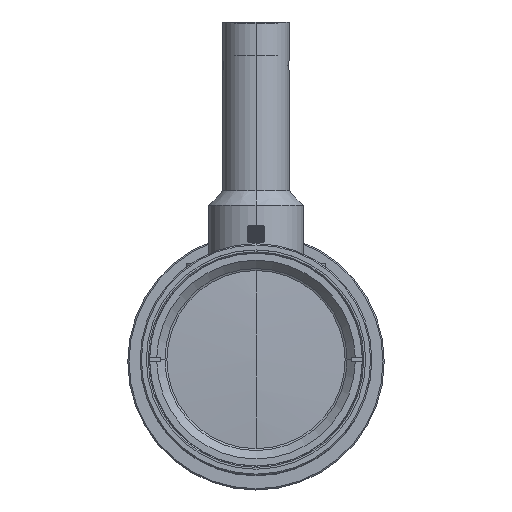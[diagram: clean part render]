
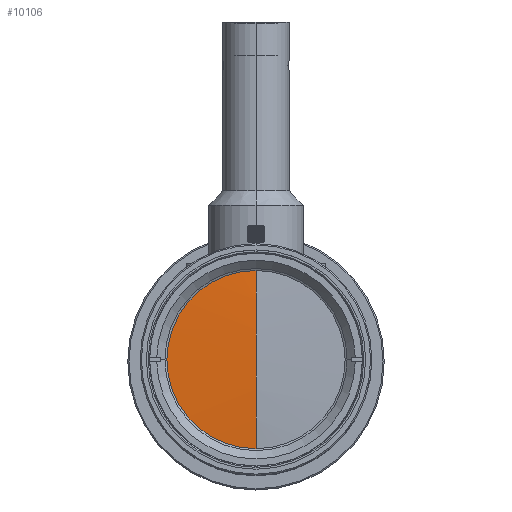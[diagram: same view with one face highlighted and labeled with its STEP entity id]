
A CAD part, top view. The second image highlights one B-rep face of the part: STEP entity #10106.
In plain terms, the highlighted spherical face has radius 311.5 mm.
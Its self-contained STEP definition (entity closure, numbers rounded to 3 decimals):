
#2051 = DIRECTION ( 'NONE',  ( -1., 0., 0. ) ) ;
#3818 = ORIENTED_EDGE ( 'NONE', *, *, #22514, .F. ) ;
#4300 = DIRECTION ( 'NONE',  ( 1., 0., 0. ) ) ;
#4497 = AXIS2_PLACEMENT_3D ( 'NONE', #29947, #19760, #22067 ) ;
#7407 = CARTESIAN_POINT ( 'NONE',  ( 0., 0., 88.155 ) ) ;
#7453 = CARTESIAN_POINT ( 'NONE',  ( 0., 0., 88.155 ) ) ;
#7720 = AXIS2_PLACEMENT_3D ( 'NONE', #7407, #25467, #10329 ) ;
#8597 = ORIENTED_EDGE ( 'NONE', *, *, #10971, .T. ) ;
#9078 = FACE_OUTER_BOUND ( 'NONE', #31744, .T. ) ;
#9719 = ORIENTED_EDGE ( 'NONE', *, *, #12336, .T. ) ;
#10106 = ADVANCED_FACE ( 'NONE', ( #9078 ), #16651, .T. ) ;
#10329 = DIRECTION ( 'NONE',  ( -1., 0., 0. ) ) ;
#10971 = EDGE_CURVE ( 'NONE', #27145, #16632, #20721, .T. ) ;
#12336 = EDGE_CURVE ( 'NONE', #21886, #27145, #22236, .T. ) ;
#12684 = DIRECTION ( 'NONE',  ( 0., 0., 1. ) ) ;
#13373 = AXIS2_PLACEMENT_3D ( 'NONE', #19383, #4300, #14271 ) ;
#14271 = DIRECTION ( 'NONE',  ( 0., 0., -1. ) ) ;
#14529 = CARTESIAN_POINT ( 'NONE',  ( 0., 21.538, 88.155 ) ) ;
#16632 = VERTEX_POINT ( 'NONE', #29083 ) ;
#16651 = SPHERICAL_SURFACE ( 'NONE', #21219, 311.5 ) ;
#19383 = CARTESIAN_POINT ( 'NONE',  ( 0., 0., -222.6 ) ) ;
#19760 = DIRECTION ( 'NONE',  ( -1., 0., 0. ) ) ;
#20617 = CARTESIAN_POINT ( 'NONE',  ( -21.538, 0., 88.155 ) ) ;
#20721 = CIRCLE ( 'NONE', #4497, 311.5 ) ;
#21219 = AXIS2_PLACEMENT_3D ( 'NONE', #22063, #2051, #32413 ) ;
#21877 = CIRCLE ( 'NONE', #7720, 21.538 ) ;
#21886 = VERTEX_POINT ( 'NONE', #20617 ) ;
#22063 = CARTESIAN_POINT ( 'NONE',  ( 0., 0., -222.6 ) ) ;
#22067 = DIRECTION ( 'NONE',  ( 0., -1., 0. ) ) ;
#22229 = DIRECTION ( 'NONE',  ( -1., 0., 0. ) ) ;
#22236 = CIRCLE ( 'NONE', #32210, 21.538 ) ;
#22514 = EDGE_CURVE ( 'NONE', #28093, #16632, #29134, .T. ) ;
#24122 = ORIENTED_EDGE ( 'NONE', *, *, #28867, .T. ) ;
#25467 = DIRECTION ( 'NONE',  ( 0., 0., 1. ) ) ;
#27145 = VERTEX_POINT ( 'NONE', #30813 ) ;
#28093 = VERTEX_POINT ( 'NONE', #14529 ) ;
#28867 = EDGE_CURVE ( 'NONE', #28093, #21886, #21877, .T. ) ;
#29083 = CARTESIAN_POINT ( 'NONE',  ( 0., 0., 88.9 ) ) ;
#29134 = CIRCLE ( 'NONE', #13373, 311.5 ) ;
#29947 = CARTESIAN_POINT ( 'NONE',  ( 0., 0., -222.6 ) ) ;
#30813 = CARTESIAN_POINT ( 'NONE',  ( 0., -21.538, 88.155 ) ) ;
#31744 = EDGE_LOOP ( 'NONE', ( #24122, #9719, #8597, #3818 ) ) ;
#32210 = AXIS2_PLACEMENT_3D ( 'NONE', #7453, #12684, #22229 ) ;
#32413 = DIRECTION ( 'NONE',  ( 0., 1., 0. ) ) ;
